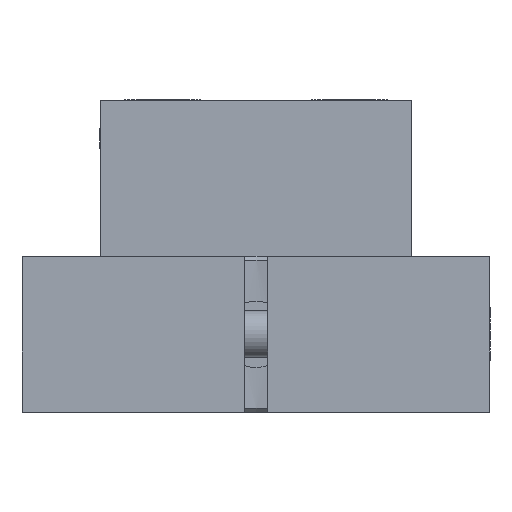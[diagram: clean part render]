
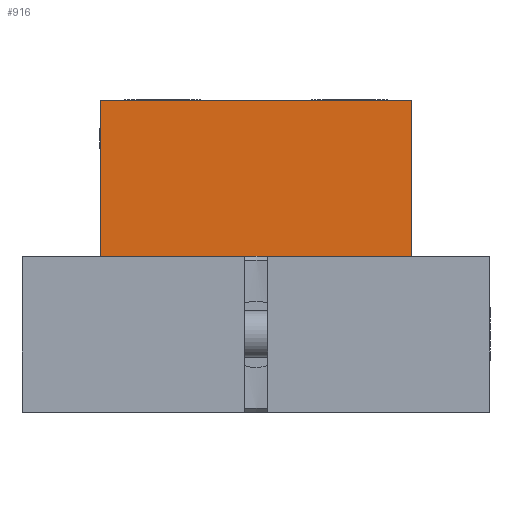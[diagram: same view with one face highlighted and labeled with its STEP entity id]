
A CAD part, front view. The second image highlights one B-rep face of the part: STEP entity #916.
In plain terms, the highlighted planar face has unit normal (0, -1, 0) as drawn and (0, 1, 0) by its records, which use the part's own axes.
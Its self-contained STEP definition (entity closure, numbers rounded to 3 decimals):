
#65 = EDGE_CURVE ( 'NONE', #825, #440, #4388, .T. ) ;
#191 = DIRECTION ( 'NONE',  ( 0., 0., -1. ) ) ;
#202 = EDGE_LOOP ( 'NONE', ( #664, #884 ) ) ;
#220 = CARTESIAN_POINT ( 'NONE',  ( -20., 0., -20. ) ) ;
#249 = LINE ( 'NONE', #4334, #1715 ) ;
#319 = DIRECTION ( 'NONE',  ( 1., 0., 0. ) ) ;
#338 = CARTESIAN_POINT ( 'NONE',  ( 10., 0., 0. ) ) ;
#440 = VERTEX_POINT ( 'NONE', #2923 ) ;
#484 = LINE ( 'NONE', #3438, #4616 ) ;
#603 = AXIS2_PLACEMENT_3D ( 'NONE', #338, #1846, #2590 ) ;
#664 = ORIENTED_EDGE ( 'NONE', *, *, #4634, .T. ) ;
#740 = VERTEX_POINT ( 'NONE', #2705 ) ;
#825 = VERTEX_POINT ( 'NONE', #4579 ) ;
#884 = ORIENTED_EDGE ( 'NONE', *, *, #65, .T. ) ;
#916 = ADVANCED_FACE ( 'NONE', ( #1247, #2727 ), #4195, .F. ) ;
#973 = CIRCLE ( 'NONE', #4766, 5.25 ) ;
#1039 = CARTESIAN_POINT ( 'NONE',  ( 10., 0., 0. ) ) ;
#1054 = EDGE_CURVE ( 'NONE', #4592, #4456, #249, .T. ) ;
#1184 = ORIENTED_EDGE ( 'NONE', *, *, #2948, .T. ) ;
#1223 = VERTEX_POINT ( 'NONE', #2598 ) ;
#1247 = FACE_BOUND ( 'NONE', #202, .T. ) ;
#1318 = DIRECTION ( 'NONE',  ( -1., 0., 0. ) ) ;
#1458 = CARTESIAN_POINT ( 'NONE',  ( -20., 0., 20. ) ) ;
#1508 = DIRECTION ( 'NONE',  ( 0., -1., 0. ) ) ;
#1631 = DIRECTION ( 'NONE',  ( -1., 0., 0. ) ) ;
#1715 = VECTOR ( 'NONE', #4674, 1000. ) ;
#1846 = DIRECTION ( 'NONE',  ( 0., -1., 0. ) ) ;
#2033 = CARTESIAN_POINT ( 'NONE',  ( 20., 0., 20. ) ) ;
#2185 = VECTOR ( 'NONE', #191, 1000. ) ;
#2420 = LINE ( 'NONE', #220, #3462 ) ;
#2516 = DIRECTION ( 'NONE',  ( 0., 0., -1. ) ) ;
#2590 = DIRECTION ( 'NONE',  ( 0., 0., -1. ) ) ;
#2598 = CARTESIAN_POINT ( 'NONE',  ( 20., 0., 20. ) ) ;
#2600 = EDGE_LOOP ( 'NONE', ( #1184, #3861, #2870, #4704 ) ) ;
#2705 = CARTESIAN_POINT ( 'NONE',  ( 20., 0., -20. ) ) ;
#2718 = AXIS2_PLACEMENT_3D ( 'NONE', #4746, #3277, #319 ) ;
#2727 = FACE_OUTER_BOUND ( 'NONE', #2600, .T. ) ;
#2790 = EDGE_CURVE ( 'NONE', #1223, #4592, #484, .T. ) ;
#2870 = ORIENTED_EDGE ( 'NONE', *, *, #2790, .F. ) ;
#2923 = CARTESIAN_POINT ( 'NONE',  ( 10., 0., -5.25 ) ) ;
#2948 = EDGE_CURVE ( 'NONE', #740, #4456, #2420, .T. ) ;
#3277 = DIRECTION ( 'NONE',  ( 0., -1., 0. ) ) ;
#3438 = CARTESIAN_POINT ( 'NONE',  ( -20., 0., 20. ) ) ;
#3462 = VECTOR ( 'NONE', #1318, 1000. ) ;
#3760 = EDGE_CURVE ( 'NONE', #1223, #740, #4561, .T. ) ;
#3861 = ORIENTED_EDGE ( 'NONE', *, *, #1054, .F. ) ;
#4011 = CARTESIAN_POINT ( 'NONE',  ( -20., 0., -20. ) ) ;
#4195 = PLANE ( 'NONE',  #2718 ) ;
#4334 = CARTESIAN_POINT ( 'NONE',  ( -20., 0., 20. ) ) ;
#4388 = CIRCLE ( 'NONE', #603, 5.25 ) ;
#4456 = VERTEX_POINT ( 'NONE', #4011 ) ;
#4561 = LINE ( 'NONE', #2033, #2185 ) ;
#4579 = CARTESIAN_POINT ( 'NONE',  ( 10., 0., 5.25 ) ) ;
#4592 = VERTEX_POINT ( 'NONE', #1458 ) ;
#4616 = VECTOR ( 'NONE', #1631, 1000. ) ;
#4634 = EDGE_CURVE ( 'NONE', #440, #825, #973, .T. ) ;
#4674 = DIRECTION ( 'NONE',  ( 0., 0., -1. ) ) ;
#4704 = ORIENTED_EDGE ( 'NONE', *, *, #3760, .T. ) ;
#4746 = CARTESIAN_POINT ( 'NONE',  ( -20., 0., 20. ) ) ;
#4766 = AXIS2_PLACEMENT_3D ( 'NONE', #1039, #1508, #2516 ) ;
